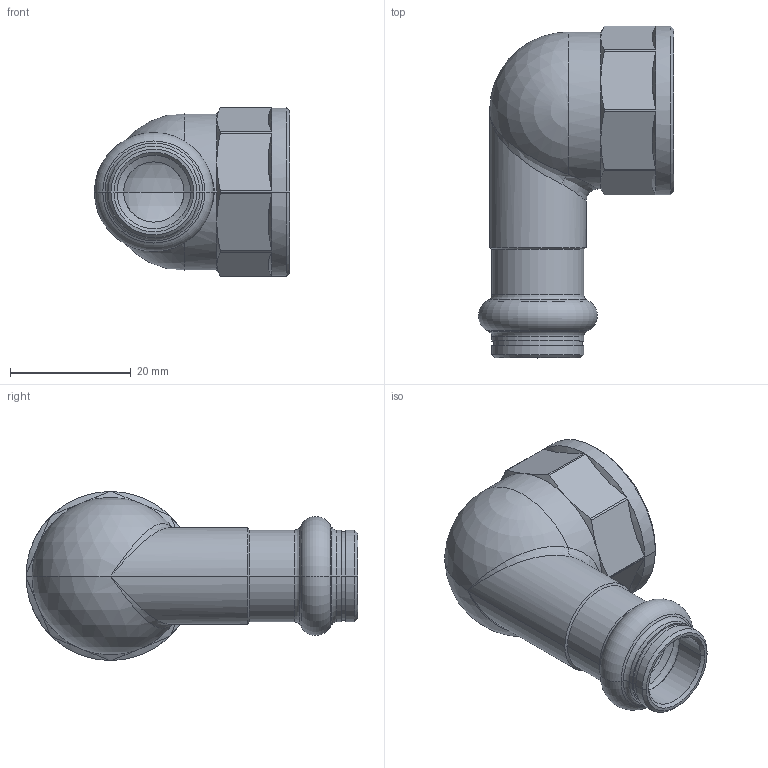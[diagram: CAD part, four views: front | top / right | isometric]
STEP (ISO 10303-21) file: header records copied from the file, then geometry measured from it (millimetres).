
FILE_DESCRIPTION (( 'STEP AP203' ), '1' );
FILE_NAME ('SP4090G Ø12 1-2.STEP', '2017-04-28T08:49:30', ( '' ), ( '' ), 'SwSTEP 2.0', 'SolidWorks 2016', '' );
FILE_SCHEMA (( 'CONFIG_CONTROL_DESIGN' ));
Length unit declared in the file: millimetre
Products named in the file (1): SP4090G Ø12 1-2
Bounding box: 32.35 x 55 x 28 mm (x, y, z)
Volume: 9568.8 mm3; surface area: 7459.4 mm2
Topology: 1 solids, 1 shells, 95 faces, 218 edges, 122 vertices
Faces by surface type: cone 41, cylinder 24, plane 13, torus 10, sphere 4, bspline 3
Entity records: 3233 total; most frequent: CARTESIAN_POINT 1063, DIRECTION 473, ORIENTED_EDGE 420, EDGE_CURVE 210, AXIS2_PLACEMENT_3D 204, VERTEX_POINT 120, CIRCLE 111, EDGE_LOOP 100
